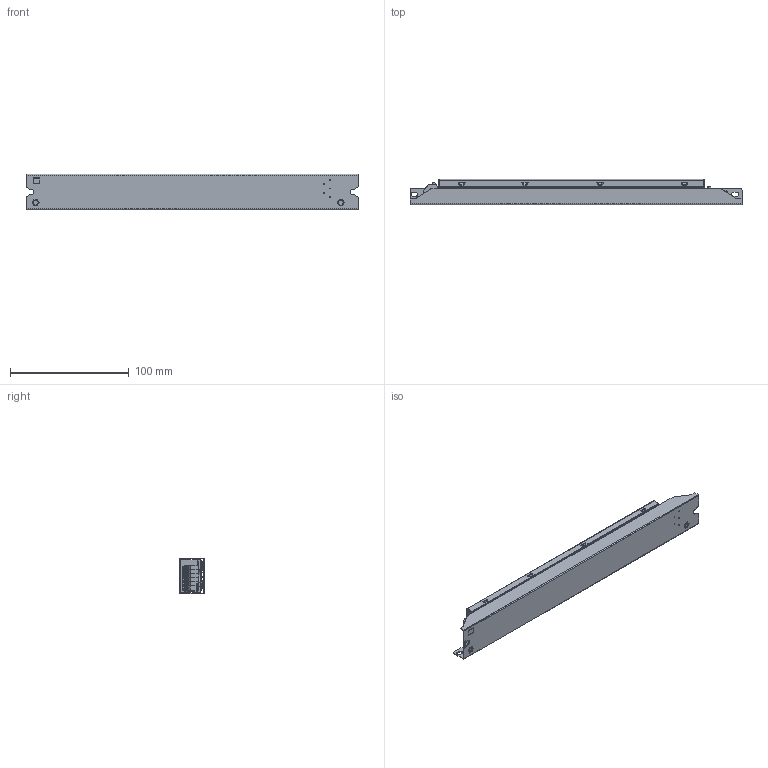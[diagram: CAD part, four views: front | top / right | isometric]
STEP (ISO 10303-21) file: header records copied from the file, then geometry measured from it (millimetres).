
FILE_DESCRIPTION((''),'2;1');
FILE_NAME('ASM0007_ASM','2025-02-06T14:45:14',('Administrator'),(''),'CREO PARAMETRIC BY PTC INC, 2020053','CREO PARAMETRIC BY PTC INC, 2020053','');
FILE_SCHEMA(('CONFIG_CONTROL_DESIGN','SHAPE_APPEARANCE_LAYERS_GROUPS'));
Length unit declared in the file: inch
Products named in the file (87): MAC046_BOTTOM_CEANZHUANG_3_1__4; MAC046_TOP_CHENGKONG_4_1_1_1_1; NEILUOWEN-M3_10_1_1_1_1_1; DUANZISHI_CASE_ASM_1_ASM_1_AS_3_ASM; BOARD_1_2_3_1_2_1_1; CIRCUITWORKS-1206_RESISTOR_1__7; R71_ASM_2_ASM_1_ASM_1_1_ASM; USER_LIBRARY-SOD-123_1_2_2_1__2; D10_ASM_3_ASM_1_ASM_1_1_ASM; CIRCUITWORKS-1206_RESISTOR_3__6; R56_1_ASM_2_ASM_1_ASM_1_1_ASM; CIRCUITWORKS-1206_RESISTOR_3_2_; R55_1_2_ASM_2_ASM_1_ASM_1_1_ASM; R60_1_2_ASM_2_ASM_1_ASM_1_1_ASM; R41_1_ASM_2_ASM_1_ASM_1_1_ASM; R37_1_2_ASM_2_ASM_1_ASM_1_1_ASM; EXTRUDED-19502_2_1_1_1; 1540493888_ASM_2_ASM_1_ASM_1_1_ASM; Q6_1_2_ASM_1_ASM_1_ASM_1_1_ASM; EXTRUDED-19717_2_1_1_1; 1540494704_ASM_2_ASM_1_ASM_1_1_ASM; Q2_ASM_4_ASM_2_ASM_1_1_ASM; USER_LIBRARY-SOD-123_3_2_1_1_2; ZD1_1_2_ASM_2_ASM_1_ASM_1_1_ASM; EXTRUDED-19960_2_1_1_1; 1540491304_ASM_2_ASM_1_ASM_1_1_ASM; F1_1_ASM_2_ASM_1_ASM_1_1_ASM; R25_1_2_3_ASM_1_ASM_1_ASM_1_1_ASM; C13_1_2_ASM_1_ASM_1_ASM_1_1_ASM; R12_1_2_ASM_1_ASM_1_ASM_1_1_ASM; R15_1_2_ASM_1_ASM_1_ASM_1_1_ASM; R21_1_ASM_1_ASM_1_ASM_1_1_ASM; EXTRUDED-19717_2_1_1; 1540494704_ASM_2_ASM_1_ASM_1_ASM; Q4_1_2_ASM_1_ASM_1_ASM_1_1_ASM; Q5_1_2_ASM_1_ASM_1_ASM_1_1_ASM; C22_1_ASM_2_ASM_1_ASM_1_1_ASM; R39_1_ASM_2_ASM_1_ASM_1_1_ASM; R14_1_2_ASM_1_ASM_1_ASM_1_1_ASM; R23_1_2_ASM_1_ASM_1_ASM_1_1_ASM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
Assembly tree (107 placements, depth 9):
  ASM0007_ASM
    MAC050PD1400UA-INT_PCCT_23070_3_ASM
      MAC030D0800UP-MA_230615_ASM_1_3_ASM
        MAC046_CASE_CEANZHUANG-CHENGK_3_ASM
          DUANZISHI_CASE_ASM_1_ASM_1_AS_3_ASM
            MAC046_BOTTOM_CEANZHUANG_3_1__4
            MAC046_TOP_CHENGKONG_4_1_1_1_1
            NEILUOWEN-M3_10_1_1_1_1_1  x2
          ASM0004_ASM_1_1_ASM_1_ASM_1_1_ASM
            PCB_1_2_3_ASM_1_ASM_2_ASM_1_1_ASM
              BOARD_1_2_3_1_2_1_1
              R71_ASM_2_ASM_1_ASM_1_1_ASM
                CIRCUITWORKS-1206_RESISTOR_1__7
              D10_ASM_3_ASM_1_ASM_1_1_ASM
                USER_LIBRARY-SOD-123_1_2_2_1__2
              R56_1_ASM_2_ASM_1_ASM_1_1_ASM
                CIRCUITWORKS-1206_RESISTOR_3__6
              R55_1_2_ASM_2_ASM_1_ASM_1_1_ASM
                CIRCUITWORKS-1206_RESISTOR_3_2_
              R60_1_2_ASM_2_ASM_1_ASM_1_1_ASM
                CIRCUITWORKS-1206_RESISTOR_3_2_
              R41_1_ASM_2_ASM_1_ASM_1_1_ASM
                CIRCUITWORKS-1206_RESISTOR_3_2_
              R37_1_2_ASM_2_ASM_1_ASM_1_1_ASM
                CIRCUITWORKS-1206_RESISTOR_3_2_
              Q6_1_2_ASM_1_ASM_1_ASM_1_1_ASM
                1540493888_ASM_2_ASM_1_ASM_1_1_ASM
                  EXTRUDED-19502_2_1_1_1
              Q2_ASM_4_ASM_2_ASM_1_1_ASM
                1540494704_ASM_2_ASM_1_ASM_1_1_ASM
                  EXTRUDED-19717_2_1_1_1
              ZD1_1_2_ASM_2_ASM_1_ASM_1_1_ASM
                USER_LIBRARY-SOD-123_3_2_1_1_2
              F1_1_ASM_2_ASM_1_ASM_1_1_ASM
                1540491304_ASM_2_ASM_1_ASM_1_1_ASM
                  EXTRUDED-19960_2_1_1_1
              R25_1_2_3_ASM_1_ASM_1_ASM_1_1_ASM
                CIRCUITWORKS-1206_RESISTOR_3_2_
              C13_1_2_ASM_1_ASM_1_ASM_1_1_ASM
                CIRCUITWORKS-1206_RESISTOR_3_2_
              R12_1_2_ASM_1_ASM_1_ASM_1_1_ASM
                CIRCUITWORKS-1206_RESISTOR_3_2_
              R15_1_2_ASM_1_ASM_1_ASM_1_1_ASM
                CIRCUITWORKS-1206_RESISTOR_3_2_
              R21_1_ASM_1_ASM_1_ASM_1_1_ASM
                CIRCUITWORKS-1206_RESISTOR_3_2_
              Q4_1_2_ASM_1_ASM_1_ASM_1_1_ASM
                1540494704_ASM_2_ASM_1_ASM_1_ASM
                  EXTRUDED-19717_2_1_1
              Q5_1_2_ASM_1_ASM_1_ASM_1_1_ASM
                1540494704_ASM_2_ASM_1_ASM_1_ASM
                  EXTRUDED-19717_2_1_1
              C22_1_ASM_2_ASM_1_ASM_1_1_ASM
                CIRCUITWORKS-1206_RESISTOR_3_2_
              R39_1_ASM_2_ASM_1_ASM_1_1_ASM
                CIRCUITWORKS-1206_RESISTOR_3_2_
              R14_1_2_ASM_1_ASM_1_ASM_1_1_ASM
                CIRCUITWORKS-1206_RESISTOR_3_2_
              R23_1_2_ASM_1_ASM_1_ASM_1_1_ASM
                CIRCUITWORKS-1206_RESISTOR_3_2_
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Bounding box: 280 x 21.2 x 30 mm (x, y, z)
Volume: 31609 mm3; surface area: 80888.6 mm2
Topology: 54 solids, 62 shells, 2608 faces, 7557 edges, 5176 vertices
Faces by surface type: plane 1605, cylinder 792, bspline 110, torus 76, cone 23, extrusion 2
Entity records: 111653 total; most frequent: CARTESIAN_POINT 25952, ORIENTED_EDGE 13452, DIRECTION 12258, EDGE_CURVE 6786, PRESENTATION_STYLE_ASSIGNMENT 6304, STYLED_ITEM 5989, CURVE_STYLE 5568, VERTEX_POINT 4665
